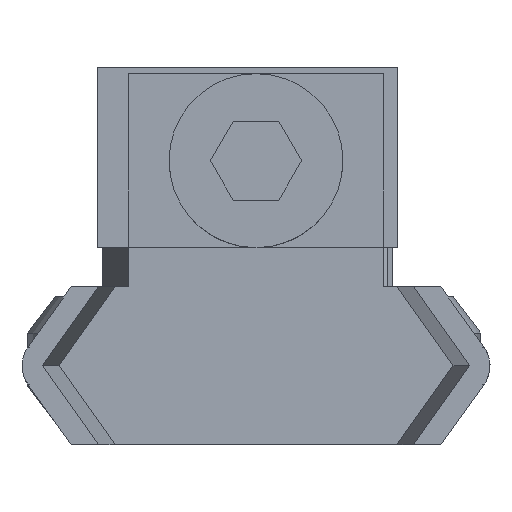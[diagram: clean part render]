
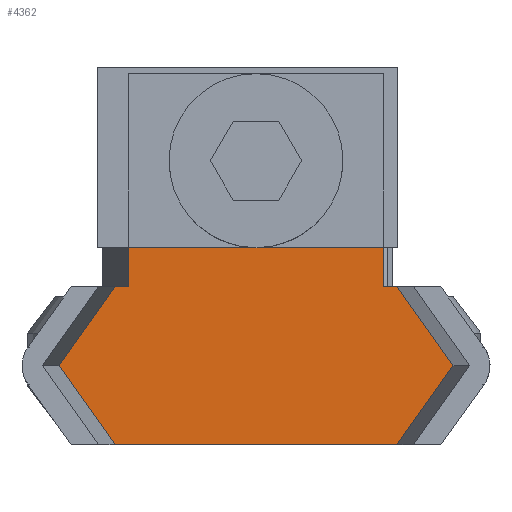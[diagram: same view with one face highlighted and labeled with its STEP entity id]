
A CAD part, left-side view. The second image highlights one B-rep face of the part: STEP entity #4362.
In plain terms, the highlighted planar face has unit normal (-1, 0, 0).
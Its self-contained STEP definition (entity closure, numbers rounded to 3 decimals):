
#36 = EDGE_CURVE ( 'NONE', #6249, #3243, #2146, .T. ) ;
#339 = CARTESIAN_POINT ( 'NONE',  ( 3., 0., 4.04 ) ) ;
#366 = LINE ( 'NONE', #3345, #7009 ) ;
#413 = DIRECTION ( 'NONE',  ( 0., 0., 1. ) ) ;
#416 = CARTESIAN_POINT ( 'NONE',  ( 3., 0., -4.451 ) ) ;
#550 = DIRECTION ( 'NONE',  ( 0., 0., 1. ) ) ;
#580 = ORIENTED_EDGE ( 'NONE', *, *, #4402, .T. ) ;
#644 = EDGE_LOOP ( 'NONE', ( #7172, #7059, #6583, #1423, #3517, #1741, #580, #725, #5820, #5254, #3599, #5988 ) ) ;
#690 = VERTEX_POINT ( 'NONE', #2491 ) ;
#725 = ORIENTED_EDGE ( 'NONE', *, *, #36, .F. ) ;
#886 = LINE ( 'NONE', #3770, #7004 ) ;
#1005 = CARTESIAN_POINT ( 'NONE',  ( 3., 1.25, 4.04 ) ) ;
#1022 = EDGE_CURVE ( 'NONE', #1884, #4107, #6212, .T. ) ;
#1064 = VECTOR ( 'NONE', #3020, 1000. ) ;
#1069 = FACE_OUTER_BOUND ( 'NONE', #644, .T. ) ;
#1368 = LINE ( 'NONE', #4545, #5304 ) ;
#1395 = CARTESIAN_POINT ( 'NONE',  ( 3., -2.5, 6.228 ) ) ;
#1423 = ORIENTED_EDGE ( 'NONE', *, *, #1022, .F. ) ;
#1483 = CARTESIAN_POINT ( 'NONE',  ( 3., -5., 4.451 ) ) ;
#1691 = DIRECTION ( 'NONE',  ( -1., 0., 0. ) ) ;
#1710 = CARTESIAN_POINT ( 'NONE',  ( 3., 0., -4.04 ) ) ;
#1741 = ORIENTED_EDGE ( 'NONE', *, *, #4533, .T. ) ;
#1778 = LINE ( 'NONE', #5350, #3731 ) ;
#1884 = VERTEX_POINT ( 'NONE', #5842 ) ;
#2005 = CARTESIAN_POINT ( 'NONE',  ( 3., 1.25, 0. ) ) ;
#2103 = CARTESIAN_POINT ( 'NONE',  ( 3., 3.99, 0. ) ) ;
#2146 = LINE ( 'NONE', #6344, #3839 ) ;
#2430 = EDGE_CURVE ( 'NONE', #5662, #4107, #6630, .T. ) ;
#2491 = CARTESIAN_POINT ( 'NONE',  ( 3., -5., -4.451 ) ) ;
#2535 = VERTEX_POINT ( 'NONE', #5784 ) ;
#2536 = AXIS2_PLACEMENT_3D ( 'NONE', #4681, #5831, #4179 ) ;
#2559 = EDGE_CURVE ( 'NONE', #2836, #4741, #7158, .T. ) ;
#2576 = LINE ( 'NONE', #2993, #1064 ) ;
#2666 = VECTOR ( 'NONE', #5091, 1000. ) ;
#2800 = VERTEX_POINT ( 'NONE', #5817 ) ;
#2836 = VERTEX_POINT ( 'NONE', #2935 ) ;
#2935 = CARTESIAN_POINT ( 'NONE',  ( 3., 1.25, 0.234 ) ) ;
#2993 = CARTESIAN_POINT ( 'NONE',  ( 3., -7.185, 2.897 ) ) ;
#3020 = DIRECTION ( 'NONE',  ( 0., 0.815, 0.579 ) ) ;
#3026 = VERTEX_POINT ( 'NONE', #1483 ) ;
#3095 = DIRECTION ( 'NONE',  ( 0., 0., 1. ) ) ;
#3243 = VERTEX_POINT ( 'NONE', #1395 ) ;
#3267 = CARTESIAN_POINT ( 'NONE',  ( 3., 0., 4.451 ) ) ;
#3339 = DIRECTION ( 'NONE',  ( 0., 0.815, -0.579 ) ) ;
#3345 = CARTESIAN_POINT ( 'NONE',  ( 3., 0., -4.04 ) ) ;
#3451 = EDGE_CURVE ( 'NONE', #2800, #2535, #4622, .T. ) ;
#3517 = ORIENTED_EDGE ( 'NONE', *, *, #6429, .F. ) ;
#3584 = DIRECTION ( 'NONE',  ( 0., -0.815, 0.579 ) ) ;
#3595 = EDGE_CURVE ( 'NONE', #2800, #5662, #366, .T. ) ;
#3599 = ORIENTED_EDGE ( 'NONE', *, *, #2559, .F. ) ;
#3649 = VECTOR ( 'NONE', #3095, 1000. ) ;
#3731 = VECTOR ( 'NONE', #5930, 1000. ) ;
#3770 = CARTESIAN_POINT ( 'NONE',  ( 3., 0., -0.176 ) ) ;
#3795 = CARTESIAN_POINT ( 'NONE',  ( 3., 0., 4.04 ) ) ;
#3839 = VECTOR ( 'NONE', #3584, 1000. ) ;
#3932 = CARTESIAN_POINT ( 'NONE',  ( 3., -2.5, -6.228 ) ) ;
#3985 = EDGE_CURVE ( 'NONE', #6249, #5495, #886, .T. ) ;
#4107 = VERTEX_POINT ( 'NONE', #416 ) ;
#4160 = CARTESIAN_POINT ( 'NONE',  ( 3., 1.25, 0. ) ) ;
#4179 = DIRECTION ( 'NONE',  ( 0., 0., -1. ) ) ;
#4362 = ADVANCED_FACE ( 'NONE', ( #1069 ), #6848, .F. ) ;
#4402 = EDGE_CURVE ( 'NONE', #3026, #3243, #2576, .T. ) ;
#4460 = DIRECTION ( 'NONE',  ( 0., -1., 0. ) ) ;
#4533 = EDGE_CURVE ( 'NONE', #690, #3026, #1778, .T. ) ;
#4539 = EDGE_CURVE ( 'NONE', #4741, #5495, #5859, .T. ) ;
#4545 = CARTESIAN_POINT ( 'NONE',  ( 3., -5., -4.451 ) ) ;
#4622 = LINE ( 'NONE', #4160, #3649 ) ;
#4660 = DIRECTION ( 'NONE',  ( 0., 0., -1. ) ) ;
#4670 = VECTOR ( 'NONE', #4660, 1000. ) ;
#4681 = CARTESIAN_POINT ( 'NONE',  ( 3., 0., 0. ) ) ;
#4741 = VERTEX_POINT ( 'NONE', #1005 ) ;
#5029 = VECTOR ( 'NONE', #413, 1000. ) ;
#5091 = DIRECTION ( 'NONE',  ( 0., 0.815, 0.579 ) ) ;
#5186 = EDGE_CURVE ( 'NONE', #2535, #2836, #7262, .T. ) ;
#5254 = ORIENTED_EDGE ( 'NONE', *, *, #4539, .F. ) ;
#5304 = VECTOR ( 'NONE', #3339, 1000. ) ;
#5350 = CARTESIAN_POINT ( 'NONE',  ( 3., -5., 0.665 ) ) ;
#5422 = DIRECTION ( 'NONE',  ( 0., 0., -1. ) ) ;
#5495 = VERTEX_POINT ( 'NONE', #3795 ) ;
#5662 = VERTEX_POINT ( 'NONE', #1710 ) ;
#5784 = CARTESIAN_POINT ( 'NONE',  ( 3., 1.25, -0.234 ) ) ;
#5817 = CARTESIAN_POINT ( 'NONE',  ( 3., 1.25, -4.04 ) ) ;
#5820 = ORIENTED_EDGE ( 'NONE', *, *, #3985, .T. ) ;
#5831 = DIRECTION ( 'NONE',  ( 1., 0., 0. ) ) ;
#5842 = CARTESIAN_POINT ( 'NONE',  ( 3., -2.5, -6.228 ) ) ;
#5859 = LINE ( 'NONE', #339, #6216 ) ;
#5919 = AXIS2_PLACEMENT_3D ( 'NONE', #2103, #1691, #550 ) ;
#5930 = DIRECTION ( 'NONE',  ( 0., 0., 1. ) ) ;
#5988 = ORIENTED_EDGE ( 'NONE', *, *, #5186, .F. ) ;
#6212 = LINE ( 'NONE', #3932, #2666 ) ;
#6216 = VECTOR ( 'NONE', #7026, 1000. ) ;
#6249 = VERTEX_POINT ( 'NONE', #3267 ) ;
#6344 = CARTESIAN_POINT ( 'NONE',  ( 3., 0., 4.451 ) ) ;
#6429 = EDGE_CURVE ( 'NONE', #690, #1884, #1368, .T. ) ;
#6583 = ORIENTED_EDGE ( 'NONE', *, *, #2430, .T. ) ;
#6630 = LINE ( 'NONE', #6853, #4670 ) ;
#6848 = PLANE ( 'NONE',  #2536 ) ;
#6853 = CARTESIAN_POINT ( 'NONE',  ( 3., 0., -0.176 ) ) ;
#7004 = VECTOR ( 'NONE', #5422, 1000. ) ;
#7009 = VECTOR ( 'NONE', #4460, 1000. ) ;
#7026 = DIRECTION ( 'NONE',  ( 0., -1., 0. ) ) ;
#7059 = ORIENTED_EDGE ( 'NONE', *, *, #3595, .T. ) ;
#7158 = LINE ( 'NONE', #2005, #5029 ) ;
#7172 = ORIENTED_EDGE ( 'NONE', *, *, #3451, .F. ) ;
#7262 = CIRCLE ( 'NONE', #5919, 2.75 ) ;
